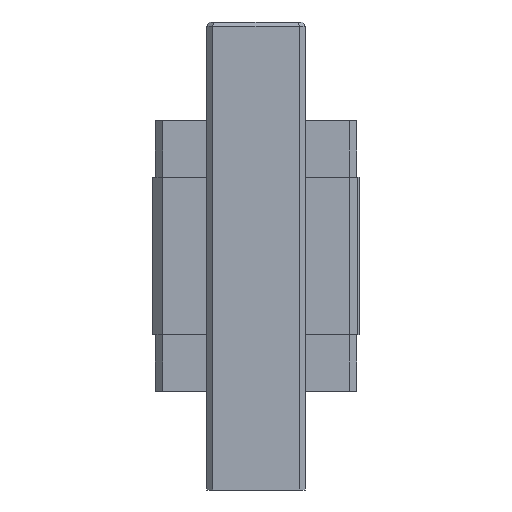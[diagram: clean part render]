
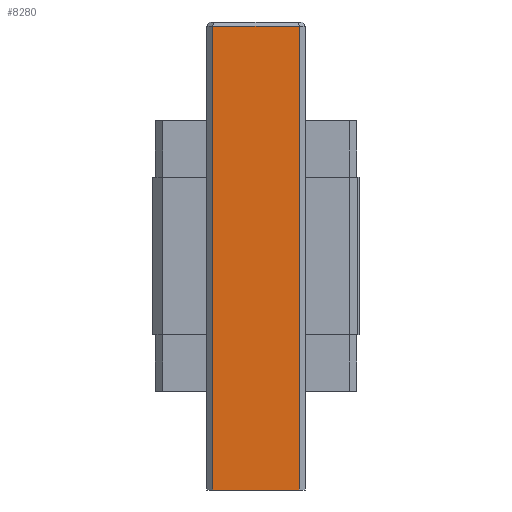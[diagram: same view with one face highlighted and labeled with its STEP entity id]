
A CAD part, front view. The second image highlights one B-rep face of the part: STEP entity #8280.
In plain terms, the highlighted planar face has unit normal (0, -1, 0).
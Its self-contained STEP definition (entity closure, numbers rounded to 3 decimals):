
#7241=DIRECTION('',(1.,0.,0.));
#7242=VECTOR('',#7241,17.6);
#7243=CARTESIAN_POINT('',(-8.8,-12.4,-47.5));
#7244=LINE('',#7243,#7242);
#7514=DIRECTION('',(1.,0.,0.));
#7515=VECTOR('',#7514,17.6);
#7516=CARTESIAN_POINT('',(-8.8,-12.4,46.634));
#7517=LINE('',#7516,#7515);
#7518=DIRECTION('',(0.,0.,1.));
#7519=VECTOR('',#7518,94.134);
#7520=CARTESIAN_POINT('',(-8.8,-12.4,-47.5));
#7521=LINE('',#7520,#7519);
#7526=DIRECTION('',(0.,0.,1.));
#7527=VECTOR('',#7526,94.134);
#7528=CARTESIAN_POINT('',(8.8,-12.4,-47.5));
#7529=LINE('',#7528,#7527);
#7712=CARTESIAN_POINT('',(-8.8,-12.4,-47.5));
#7713=VERTEX_POINT('',#7712);
#7714=CARTESIAN_POINT('',(8.8,-12.4,-47.5));
#7715=VERTEX_POINT('',#7714);
#7776=CARTESIAN_POINT('',(8.8,-12.4,46.634));
#7777=VERTEX_POINT('',#7776);
#7780=CARTESIAN_POINT('',(-8.8,-12.4,46.634));
#7781=VERTEX_POINT('',#7780);
#8268=CARTESIAN_POINT('',(-8.8,-12.4,-47.5));
#8269=DIRECTION('',(0.,-1.,0.));
#8270=DIRECTION('',(1.,0.,0.));
#8271=AXIS2_PLACEMENT_3D('',#8268,#8269,#8270);
#8272=PLANE('',#8271);
#8273=ORIENTED_EDGE('',*,*,#8259,.T.);
#8275=ORIENTED_EDGE('',*,*,#8274,.F.);
#8276=ORIENTED_EDGE('',*,*,#7861,.F.);
#8277=ORIENTED_EDGE('',*,*,#8234,.T.);
#8278=EDGE_LOOP('',(#8273,#8275,#8276,#8277));
#8279=FACE_OUTER_BOUND('',#8278,.F.);
#7861=EDGE_CURVE('',#7713,#7715,#7244,.T.);
#8234=EDGE_CURVE('',#7713,#7781,#7521,.T.);
#8259=EDGE_CURVE('',#7781,#7777,#7517,.T.);
#8274=EDGE_CURVE('',#7715,#7777,#7529,.T.);
#8280=ADVANCED_FACE('',(#8279),#8272,.T.);
